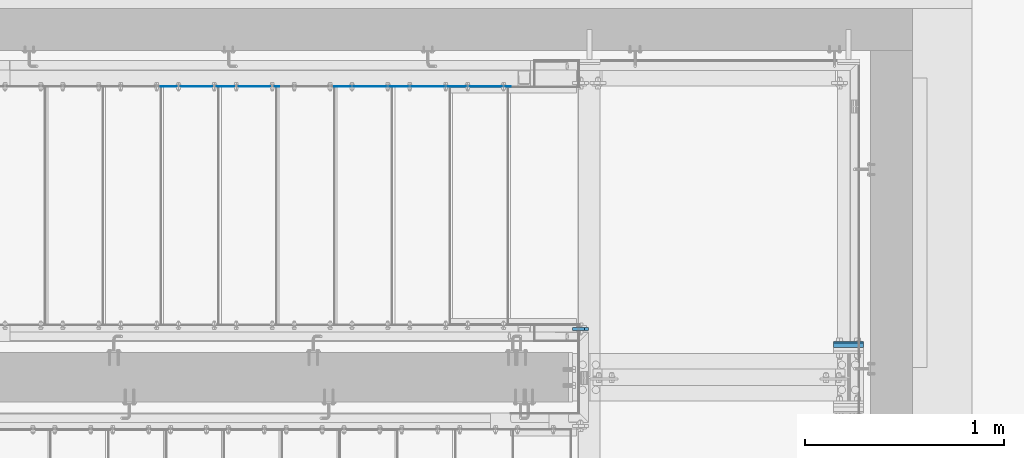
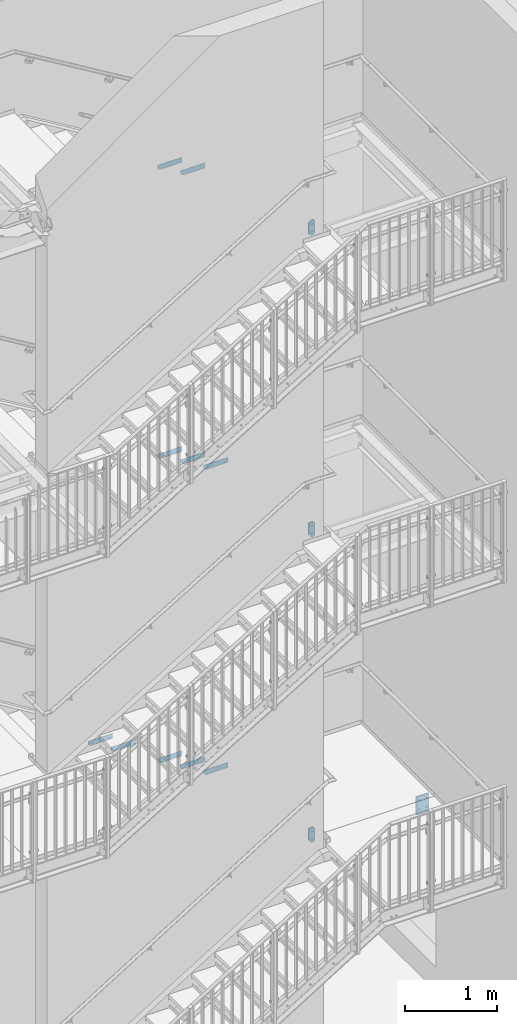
# One storey, part 65 of 410: 14 plates, 41 openings.
"""IFC2X3 building model written with IfcOpenShell, lengths in millimetres."""

import ifcopenshell
import ifcopenshell.guid

model = None  # the IFC model being written
_history = None  # IfcOwnerHistory: only IFC2X3 demands one
_inside = {}  # id of a spatial element -> (the spatial element, [elements in it])
_under = {}  # id of a project, library or spatial element -> (it, [spatial elements below it])
_declared = {}  # id of a project -> (the project, [libraries it declares])
_typed = {}  # id of a type object -> (the type object, [elements of that type])
_made_of = {}  # id of a material, layer set ... -> (it, [elements and type objects made of it])


def new_model(schema):
    """Start an empty IFC model of exactly this schema.

    Asked for "IFC4X3", IfcOpenShell would pick the latest addendum, in which some entities
    have other attributes; the version numbers below select the first issue.
    IFC2X3 requires an IfcOwnerHistory on every rooted entity: one is made here for all.
    """
    global model, _history
    if schema == "IFC4X3":
        model = ifcopenshell.file(schema_version=(4, 3, 0, 0))
    else:
        model = ifcopenshell.file(schema=schema)
    _inside.clear()
    _under.clear()
    _declared.clear()
    _typed.clear()
    _made_of.clear()
    _history = None
    if model.schema == "IFC2X3":
        org = make("IfcOrganization", Name="unknown")
        user = make(
            "IfcPersonAndOrganization",
            ThePerson=make("IfcPerson", FamilyName="unknown"),
            TheOrganization=org,
        )
        app = make(
            "IfcApplication",
            ApplicationDeveloper=org,
            Version="unknown",
            ApplicationFullName="unknown",
            ApplicationIdentifier="unknown",
        )
        _history = make(
            "IfcOwnerHistory",
            OwningUser=user,
            OwningApplication=app,
            ChangeAction="ADDED",
            CreationDate=0,
        )
    return model


def make(cls, **values):
    """One entity of the class cls with the attributes given. An attribute that is None is left unset."""
    return model.create_entity(
        cls, **{name: value for name, value in values.items() if value is not None}
    )


def entity(cls, *values):
    """Any entity or typed value of the class cls, its attributes in the order of the schema. None: left unset."""
    e = model.create_entity(cls)
    for i, value in enumerate(values):
        if value is not None:
            e[i] = value
    return e


def rooted(cls, **values):
    """An entity with a GlobalId (a new one), such as an element, a storey or a relation."""
    return make(cls, GlobalId=ifcopenshell.guid.new(), OwnerHistory=_history, **values)


def si_unit(unit_type, name, prefix=None):
    """IfcSIUnit, for example si_unit("LENGTHUNIT", "METRE", prefix="MILLI")."""
    return make("IfcSIUnit", UnitType=unit_type, Prefix=prefix, Name=name)


def converted_unit(unit_type, name, factor, base, dimensions=None, offset=None):
    """IfcConversionBasedUnit, such as the inch: factor (a typed value) times the base unit."""
    return make(
        "IfcConversionBasedUnit"
        if offset is None
        else "IfcConversionBasedUnitWithOffset",
        ConversionOffset=offset,
        Dimensions=None
        if dimensions is None
        else entity("IfcDimensionalExponents", *dimensions),
        UnitType=unit_type,
        Name=name,
        ConversionFactor=make(
            "IfcMeasureWithUnit", ValueComponent=factor, UnitComponent=base
        ),
    )


def assignment(units):
    """IfcUnitAssignment: the units of a project."""
    return None if units is None else make("IfcUnitAssignment", Units=units)


def point(xyz):
    """IfcCartesianPoint."""
    return None if xyz is None else make("IfcCartesianPoint", Coordinates=xyz)


def direction(xyz):
    """IfcDirection."""
    return None if xyz is None else make("IfcDirection", DirectionRatios=xyz)


def frame(location, z_axis=None, x_axis=None):
    """IfcAxis2Placement3D, a coordinate frame: its origin and axes. An axis left out is left unset."""
    return make(
        "IfcAxis2Placement3D",
        Location=point(location),
        Axis=direction(z_axis),
        RefDirection=direction(x_axis),
    )


def frame_2d(location, x_axis=None):
    """IfcAxis2Placement2D, a coordinate frame in the plane: its origin and x axis."""
    return make(
        "IfcAxis2Placement2D", Location=point(location), RefDirection=direction(x_axis)
    )


def origin():
    """The frame at (0, 0, 0) with its axes left unset."""
    return frame((0.0, 0.0, 0.0))


def origin_with_axes():
    """The frame at (0, 0, 0) with the z axis (0, 0, 1) and the x axis (1, 0, 0) written out."""
    return frame((0.0, 0.0, 0.0), z_axis=(0.0, 0.0, 1.0), x_axis=(1.0, 0.0, 0.0))


def origin_2d_with_axis():
    """The frame at (0, 0) in the plane with the x axis (1, 0) written out."""
    return frame_2d((0.0, 0.0), x_axis=(1.0, 0.0))


def place(relative_to, where):
    """IfcLocalPlacement: puts the frame where relative to a parent placement (None: the world)."""
    return make(
        "IfcLocalPlacement", PlacementRelTo=relative_to, RelativePlacement=where
    )


def context(
    kind, dimensions, precision=None, world=None, true_north=None, identifier=None
):
    """IfcGeometricRepresentationContext, for example the 3D "Model" context."""
    return make(
        "IfcGeometricRepresentationContext",
        ContextIdentifier=identifier,
        ContextType=kind,
        CoordinateSpaceDimension=dimensions,
        Precision=precision,
        WorldCoordinateSystem=world,
        TrueNorth=true_north,
    )


def project(units=None, contexts=None):
    """IfcProject with its units and contexts."""
    return rooted(
        "IfcProject",
        Name="project",
        RepresentationContexts=contexts,
        UnitsInContext=assignment(units),
    )


def spatial(cls, under=None, at=None, **own):
    """A site, building, storey or space (cls), placed at a placement, below another one or the project."""
    s = rooted(cls, ObjectPlacement=at, **own)
    if under is not None:
        _under.setdefault(under.id(), (under, []))[1].append(s)
    return s


def polyline(points):
    """IfcPolyline through the points."""
    return make("IfcPolyline", Points=[point(p) for p in points])


def circle_curve(where, radius):
    """IfcCircle in the frame where."""
    return make("IfcCircle", Position=where, Radius=radius)


def line_curve(start, along, magnitude):
    """IfcLine from a point along a vector."""
    return make(
        "IfcLine",
        Pnt=point(start),
        Dir=make("IfcVector", Orientation=direction(along), Magnitude=magnitude),
    )


def trimmed(basis, trim1, trim2, sense, master):
    """IfcTrimmedCurve: the piece of a basis curve between two trims."""
    return make(
        "IfcTrimmedCurve",
        BasisCurve=basis,
        Trim1=trim1,
        Trim2=trim2,
        SenseAgreement=sense,
        MasterRepresentation=master,
    )


def segment(curve, same_sense, transition):
    """IfcCompositeCurveSegment."""
    return make(
        "IfcCompositeCurveSegment",
        Transition=transition,
        SameSense=same_sense,
        ParentCurve=curve,
    )


def composite_curve(segments, self_intersect=None):
    """IfcCompositeCurve: segments joined end to end."""
    return make("IfcCompositeCurve", Segments=segments, SelfIntersect=self_intersect)


def profile(cls, at=None, kind="AREA", **sizes):
    """A parametric profile (cls). Its sizes go by their IFC names, for example OverallWidth=200.0."""
    return make(cls, ProfileType=kind, Position=at, **sizes)


def circle(**sizes):
    """IfcCircleProfileDef."""
    return profile("IfcCircleProfileDef", **sizes)


def outline(outer, holes=None, kind="AREA"):
    """IfcArbitraryClosedProfileDef: a profile drawn as a closed curve; with holes, ...WithVoids."""
    if holes is None:
        return make("IfcArbitraryClosedProfileDef", ProfileType=kind, OuterCurve=outer)
    return make(
        "IfcArbitraryProfileDefWithVoids",
        ProfileType=kind,
        OuterCurve=outer,
        InnerCurves=holes,
    )


def extrude(swept, where, along, depth):
    """IfcExtrudedAreaSolid: the profile swept, set in the frame where, extruded along a direction by depth."""
    return make(
        "IfcExtrudedAreaSolid",
        SweptArea=swept,
        Position=where,
        ExtrudedDirection=direction(along),
        Depth=depth,
    )


def shape(context_of_items, identifier, shape_type, items):
    """IfcShapeRepresentation: the items that make up one representation, for example the "Body"."""
    return make(
        "IfcShapeRepresentation",
        ContextOfItems=context_of_items,
        RepresentationIdentifier=identifier,
        RepresentationType=shape_type,
        Items=items,
    )


def material(Name=None, Category=None):
    """IfcMaterial."""
    return make("IfcMaterial", Name=Name, Category=Category)


def layer(
    of_material, thickness, ventilated=None, Name=None, Category=None, Priority=None
):
    """IfcMaterialLayer: one layer of a wall or slab, of a material (None: an air gap)."""
    return make(
        "IfcMaterialLayer",
        Material=of_material,
        LayerThickness=thickness,
        IsVentilated=ventilated,
        Name=Name,
        Category=Category,
        Priority=Priority,
    )


def layer_set(layers, Name=None):
    """IfcMaterialLayerSet."""
    return make("IfcMaterialLayerSet", MaterialLayers=layers, LayerSetName=Name)


def made_of(thing, what):
    """Note that an element or type object is made of a material, layer set ...; save() writes the relation."""
    if what is not None:
        _made_of.setdefault(what.id(), (what, []))[1].append(thing)
    return thing


def element(
    cls,
    number,
    at=None,
    inside=None,
    cuts=None,
    type_object=None,
    material=None,
    context=None,
    identifier="Body",
    shape_type=None,
    held_by="IfcProductDefinitionShape",
    body=None,
    shapes=None,
    **own,
):
    """One element of the class cls, such as IfcWall. Its Tag is "e" and its number.

    at: its placement. inside: the storey or other place that contains it. cuts: it is an
    opening in that element (IfcRelVoidsElement). A single representation is given by context,
    identifier, shape_type and body (its items); several are given by shapes. held_by: the class
    of the entity that holds the representations. save() writes the other relations.
    """
    e = rooted(cls, Tag="e%d" % number, ObjectPlacement=at, **own)
    if body is not None:
        shapes = [shape(context, identifier, shape_type, body)]
    if shapes is not None:
        e.Representation = make(held_by, Representations=shapes)
    if inside is not None:
        _inside.setdefault(inside.id(), (inside, []))[1].append(e)
    if cuts is not None:
        rooted(
            "IfcRelVoidsElement", RelatingBuildingElement=cuts, RelatedOpeningElement=e
        )
    if type_object is not None:
        _typed.setdefault(type_object.id(), (type_object, []))[1].append(e)
    return made_of(e, material)


def aggregate(whole, parts):
    """IfcRelAggregates: a whole, such as a stair, and the parts it consists of."""
    return rooted("IfcRelAggregates", RelatingObject=whole, RelatedObjects=parts)


def save(model, path):
    """Write the relations noted so far, then the file.

    IfcRelAggregates (storeys below a building ...), IfcRelContainedInSpatialStructure (elements
    in a storey), IfcRelDefinesByType, IfcRelAssociatesMaterial and IfcRelDeclares: one each for
    every whole, place, type object, material and project.
    """
    for whole, parts in _under.values():
        aggregate(whole, parts)
    for where, things in _inside.values():
        rooted(
            "IfcRelContainedInSpatialStructure",
            RelatedElements=things,
            RelatingStructure=where,
        )
    for kind, things in _typed.values():
        rooted("IfcRelDefinesByType", RelatedObjects=things, RelatingType=kind)
    for what, things in _made_of.values():
        rooted("IfcRelAssociatesMaterial", RelatedObjects=things, RelatingMaterial=what)
    for by, libraries in _declared.values():
        rooted("IfcRelDeclares", RelatingContext=by, RelatedDefinitions=libraries)
    model.write(path)


model = new_model("IFC2X3")

# Units and contexts
model_context = context("Model", 3, precision=1e-09, world=origin_with_axes())
ifc_project = project(units=[si_unit("LENGTHUNIT", "METRE", prefix="MILLI"), si_unit("AREAUNIT", "SQUARE_METRE"), si_unit("VOLUMEUNIT", "CUBIC_METRE"), converted_unit("PLANEANGLEUNIT", "DEGREE", entity("IfcPlaneAngleMeasure", 0.01745329), si_unit("PLANEANGLEUNIT", "RADIAN"), dimensions=[0, 0, 0, 0, 0, 0, 0])], contexts=[model_context])

# Site, building, storey
site_placement = place(None, origin_with_axes())
site = spatial("IfcSite", under=ifc_project, at=site_placement, Name="mKR Teilneubau & Sanierung BA1 - Ostfildern", CompositionType="ELEMENT")
building_placement = place(site_placement, origin_with_axes())
building = spatial("IfcBuilding", under=site, at=building_placement, Name="Struktur 1", CompositionType="ELEMENT")
storey_placement = place(building_placement, origin_with_axes())
storey = spatial("IfcBuildingStorey", under=building, at=storey_placement, Name="Default Storey", CompositionType="ELEMENT", Elevation=0.0)

# Plate, openings
ifc_material = material(Name="S235JR")
ifc_layer_1 = layer(ifc_material, 3.0)
ifc_layer_set_1 = layer_set([ifc_layer_1], Name="S235JR")
plate_1_placement = place(None, frame((905.0, 18436.999999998, 6275.0), z_axis=(0.0, 1.0, 0.0), x_axis=(0.0, 0.0, -1.0)))
plate_1 = element("IfcPlate", 1, at=plate_1_placement, inside=storey, material=ifc_layer_set_1, Name="Grate_Step#3", ObjectType="Grate_Step#3", context=model_context, shape_type="SweptSolid", body=[
    extrude(outline(polyline([(0.0, 0.0), (70.0, 0.0), (70.0, 275.0), (40.0, 305.0), (0.0, 305.0), (0.0, 0.0)])), origin_with_axes(), (0.0, 0.0, 1.0), 3.0),
])
opening_1_placement = place(plate_1_placement, frame((55.0, 35.0, -0.5), z_axis=(0.0, 0.0, 1.0), x_axis=(0.0, 1.0, 0.0)))
element("IfcOpeningElement", 2, at=opening_1_placement, cuts=plate_1, ObjectType="Opening", context=model_context, shape_type="SweptSolid", body=[
    extrude(circle(Radius=7.001, at=origin_2d_with_axis()), origin(), (0.0, 0.0, 1.0), 4.0),
])
opening_2_placement = place(plate_1_placement, frame((55.0, 215.0, -0.5), z_axis=(0.0, 0.0, 1.0), x_axis=(0.0, 1.0, 0.0)))
element("IfcOpeningElement", 3, at=opening_2_placement, cuts=plate_1, ObjectType="Opening", context=model_context, shape_type="SweptSolid", body=[
    extrude(outline(composite_curve([segment(trimmed(line_curve((-9.5, -7.001), (1.0, 0.0), 19.0), [point((-9.5, -7.001))], [point((9.5, -7.001))], True, "CARTESIAN"), True, "CONTINUOUS"), segment(trimmed(circle_curve(frame_2d((9.5, 0.0), x_axis=(1.0, 0.0)), 7.001), [point((9.5, -7.001))], [point((9.5, 7.001))], True, "CARTESIAN"), True, "CONTINUOUS"), segment(trimmed(line_curve((9.5, 7.001), (-1.0, 0.0), 19.0), [point((9.5, 7.001))], [point((-9.5, 7.001))], True, "CARTESIAN"), True, "CONTINUOUS"), segment(trimmed(circle_curve(frame_2d((-9.5, 0.0), x_axis=(1.0, 0.0)), 7.001), [point((-9.5, 7.001))], [point((-9.5, -7.001))], True, "CARTESIAN"), True, "CONTINUOUS")], self_intersect=False)), origin(), (0.0, 0.0, 1.0), 4.0),
])

plate_2_placement = place(None, frame((1195.0, 18436.999999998, 6100.0), z_axis=(0.0, 1.0, 0.0), x_axis=(0.0, 0.0, -1.0)))
plate_2 = element("IfcPlate", 4, at=plate_2_placement, inside=storey, material=ifc_layer_set_1, Name="Grate_Step#3", ObjectType="Grate_Step#3", context=model_context, shape_type="SweptSolid", body=[
    extrude(outline(polyline([(0.0, 0.0), (70.0, 0.0), (70.0, 275.0), (40.0, 305.0), (0.0, 305.0), (0.0, 0.0)])), origin_with_axes(), (0.0, 0.0, 1.0), 3.0),
])
opening_3_placement = place(plate_2_placement, frame((55.0, 215.0, -0.5), z_axis=(0.0, 0.0, 1.0), x_axis=(0.0, 1.0, 0.0)))
element("IfcOpeningElement", 5, at=opening_3_placement, cuts=plate_2, ObjectType="Opening", context=model_context, shape_type="SweptSolid", body=[
    extrude(outline(composite_curve([segment(trimmed(line_curve((-9.5, -7.001), (1.0, 0.0), 19.0), [point((-9.5, -7.001))], [point((9.5, -7.001))], True, "CARTESIAN"), True, "CONTINUOUS"), segment(trimmed(circle_curve(frame_2d((9.5, 0.0), x_axis=(1.0, 0.0)), 7.001), [point((9.5, -7.001))], [point((9.5, 7.001))], True, "CARTESIAN"), True, "CONTINUOUS"), segment(trimmed(line_curve((9.5, 7.001), (-1.0, 0.0), 19.0), [point((9.5, 7.001))], [point((-9.5, 7.001))], True, "CARTESIAN"), True, "CONTINUOUS"), segment(trimmed(circle_curve(frame_2d((-9.5, 0.0), x_axis=(1.0, 0.0)), 7.001), [point((-9.5, 7.001))], [point((-9.5, -7.001))], True, "CARTESIAN"), True, "CONTINUOUS")], self_intersect=False)), origin(), (0.0, 0.0, 1.0), 4.0),
])
opening_4_placement = place(plate_2_placement, frame((55.0, 35.0, -0.5), z_axis=(0.0, 0.0, 1.0), x_axis=(0.0, 1.0, 0.0)))
element("IfcOpeningElement", 6, at=opening_4_placement, cuts=plate_2, ObjectType="Opening", context=model_context, shape_type="SweptSolid", body=[
    extrude(circle(Radius=7.001, at=origin_2d_with_axis()), origin(), (0.0, 0.0, 1.0), 4.0),
])

plate_3_placement = place(None, frame((1485.0, 18436.999999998, 2086.956522), z_axis=(0.0, 1.0, 0.0), x_axis=(0.0, 0.0, -1.0)))
plate_3 = element("IfcPlate", 7, at=plate_3_placement, inside=storey, material=ifc_layer_set_1, Name="Grate_Step#3", ObjectType="Grate_Step#3", context=model_context, shape_type="SweptSolid", body=[
    extrude(outline(polyline([(0.0, 0.0), (70.0, 0.0), (70.0, 275.0), (40.0, 305.0), (0.0, 305.0), (0.0, 0.0)])), origin_with_axes(), (0.0, 0.0, 1.0), 3.0),
])
opening_5_placement = place(plate_3_placement, frame((55.0, 35.0, -0.5), z_axis=(0.0, 0.0, 1.0), x_axis=(0.0, 1.0, 0.0)))
element("IfcOpeningElement", 8, at=opening_5_placement, cuts=plate_3, ObjectType="Opening", context=model_context, shape_type="SweptSolid", body=[
    extrude(circle(Radius=7.001, at=origin_2d_with_axis()), origin(), (0.0, 0.0, 1.0), 4.0),
])
opening_6_placement = place(plate_3_placement, frame((55.0, 215.0, -0.5), z_axis=(0.0, 0.0, 1.0), x_axis=(0.0, 1.0, 0.0)))
element("IfcOpeningElement", 9, at=opening_6_placement, cuts=plate_3, ObjectType="Opening", context=model_context, shape_type="SweptSolid", body=[
    extrude(outline(composite_curve([segment(trimmed(line_curve((-9.5, -7.001), (1.0, 0.0), 19.0), [point((-9.5, -7.001))], [point((9.5, -7.001))], True, "CARTESIAN"), True, "CONTINUOUS"), segment(trimmed(circle_curve(frame_2d((9.5, 0.0), x_axis=(1.0, 0.0)), 7.001), [point((9.5, -7.001))], [point((9.5, 7.001))], True, "CARTESIAN"), True, "CONTINUOUS"), segment(trimmed(line_curve((9.5, 7.001), (-1.0, 0.0), 19.0), [point((9.5, 7.001))], [point((-9.5, 7.001))], True, "CARTESIAN"), True, "CONTINUOUS"), segment(trimmed(circle_curve(frame_2d((-9.5, 0.0), x_axis=(1.0, 0.0)), 7.001), [point((-9.5, 7.001))], [point((-9.5, -7.001))], True, "CARTESIAN"), True, "CONTINUOUS")], self_intersect=False)), origin(), (0.0, 0.0, 1.0), 4.0),
])

plate_4_placement = place(None, frame((1195.0, 18436.999999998, 2260.8695655), z_axis=(0.0, 1.0, 0.0), x_axis=(0.0, 0.0, -1.0)))
plate_4 = element("IfcPlate", 10, at=plate_4_placement, inside=storey, material=ifc_layer_set_1, Name="Grate_Step#3", ObjectType="Grate_Step#3", context=model_context, shape_type="SweptSolid", body=[
    extrude(outline(polyline([(0.0, 0.0), (70.0, 0.0), (70.0, 275.0), (40.0, 305.0), (0.0, 305.0), (0.0, 0.0)])), origin_with_axes(), (0.0, 0.0, 1.0), 3.0),
])
opening_7_placement = place(plate_4_placement, frame((55.0, 215.0, -0.5), z_axis=(0.0, 0.0, 1.0), x_axis=(0.0, 1.0, 0.0)))
element("IfcOpeningElement", 11, at=opening_7_placement, cuts=plate_4, ObjectType="Opening", context=model_context, shape_type="SweptSolid", body=[
    extrude(outline(composite_curve([segment(trimmed(line_curve((-9.5, -7.001), (1.0, 0.0), 19.0), [point((-9.5, -7.001))], [point((9.5, -7.001))], True, "CARTESIAN"), True, "CONTINUOUS"), segment(trimmed(circle_curve(frame_2d((9.5, 0.0), x_axis=(1.0, 0.0)), 7.001), [point((9.5, -7.001))], [point((9.5, 7.001))], True, "CARTESIAN"), True, "CONTINUOUS"), segment(trimmed(line_curve((9.5, 7.001), (-1.0, 0.0), 19.0), [point((9.5, 7.001))], [point((-9.5, 7.001))], True, "CARTESIAN"), True, "CONTINUOUS"), segment(trimmed(circle_curve(frame_2d((-9.5, 0.0), x_axis=(1.0, 0.0)), 7.001), [point((-9.5, 7.001))], [point((-9.5, -7.001))], True, "CARTESIAN"), True, "CONTINUOUS")], self_intersect=False)), origin(), (0.0, 0.0, 1.0), 4.0),
])
opening_8_placement = place(plate_4_placement, frame((55.0, 35.0, -0.5), z_axis=(0.0, 0.0, 1.0), x_axis=(0.0, 1.0, 0.0)))
element("IfcOpeningElement", 12, at=opening_8_placement, cuts=plate_4, ObjectType="Opening", context=model_context, shape_type="SweptSolid", body=[
    extrude(circle(Radius=7.001, at=origin_2d_with_axis()), origin(), (0.0, 0.0, 1.0), 4.0),
])

plate_5_placement = place(None, frame((905.0, 18436.999999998, 2434.782609), z_axis=(0.0, 1.0, 0.0), x_axis=(0.0, 0.0, -1.0)))
plate_5 = element("IfcPlate", 13, at=plate_5_placement, inside=storey, material=ifc_layer_set_1, Name="Grate_Step#3", ObjectType="Grate_Step#3", context=model_context, shape_type="SweptSolid", body=[
    extrude(outline(polyline([(0.0, 0.0), (70.0, 0.0), (70.0, 275.0), (40.0, 305.0), (0.0, 305.0), (0.0, 0.0)])), origin_with_axes(), (0.0, 0.0, 1.0), 3.0),
])
opening_9_placement = place(plate_5_placement, frame((55.0, 215.0, -0.5), z_axis=(0.0, 0.0, 1.0), x_axis=(0.0, 1.0, 0.0)))
element("IfcOpeningElement", 14, at=opening_9_placement, cuts=plate_5, ObjectType="Opening", context=model_context, shape_type="SweptSolid", body=[
    extrude(outline(composite_curve([segment(trimmed(line_curve((-9.5, -7.001), (1.0, 0.0), 19.0), [point((-9.5, -7.001))], [point((9.5, -7.001))], True, "CARTESIAN"), True, "CONTINUOUS"), segment(trimmed(circle_curve(frame_2d((9.5, 0.0), x_axis=(1.0, 0.0)), 7.001), [point((9.5, -7.001))], [point((9.5, 7.001))], True, "CARTESIAN"), True, "CONTINUOUS"), segment(trimmed(line_curve((9.5, 7.001), (-1.0, 0.0), 19.0), [point((9.5, 7.001))], [point((-9.5, 7.001))], True, "CARTESIAN"), True, "CONTINUOUS"), segment(trimmed(circle_curve(frame_2d((-9.5, 0.0), x_axis=(1.0, 0.0)), 7.001), [point((-9.5, 7.001))], [point((-9.5, -7.001))], True, "CARTESIAN"), True, "CONTINUOUS")], self_intersect=False)), origin(), (0.0, 0.0, 1.0), 4.0),
])
opening_10_placement = place(plate_5_placement, frame((55.0, 35.0, -0.5), z_axis=(0.0, 0.0, 1.0), x_axis=(0.0, 1.0, 0.0)))
element("IfcOpeningElement", 15, at=opening_10_placement, cuts=plate_5, ObjectType="Opening", context=model_context, shape_type="SweptSolid", body=[
    extrude(circle(Radius=7.001, at=origin_2d_with_axis()), origin(), (0.0, 0.0, 1.0), 4.0),
])

plate_6_placement = place(None, frame((1485.0, 18436.999999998, -1966.8), z_axis=(0.0, 1.0, 0.0), x_axis=(0.0, 0.0, -1.0)))
plate_6 = element("IfcPlate", 16, at=plate_6_placement, inside=storey, material=ifc_layer_set_1, Name="Grate_Step#3", ObjectType="Grate_Step#3", context=model_context, shape_type="SweptSolid", body=[
    extrude(outline(polyline([(0.0, 0.0), (70.0, 0.0), (70.0, 275.0), (40.0, 305.0), (0.0, 305.0), (0.0, 0.0)])), origin_with_axes(), (0.0, 0.0, 1.0), 3.0),
])
opening_11_placement = place(plate_6_placement, frame((55.0, 35.0, -0.5), z_axis=(0.0, 0.0, 1.0), x_axis=(0.0, 1.0, 0.0)))
element("IfcOpeningElement", 17, at=opening_11_placement, cuts=plate_6, ObjectType="Opening", context=model_context, shape_type="SweptSolid", body=[
    extrude(circle(Radius=7.001, at=origin_2d_with_axis()), origin(), (0.0, 0.0, 1.0), 4.0),
])
opening_12_placement = place(plate_6_placement, frame((55.0, 215.0, -0.5), z_axis=(0.0, 0.0, 1.0), x_axis=(0.0, 1.0, 0.0)))
element("IfcOpeningElement", 18, at=opening_12_placement, cuts=plate_6, ObjectType="Opening", context=model_context, shape_type="SweptSolid", body=[
    extrude(outline(composite_curve([segment(trimmed(line_curve((-9.5, -7.001), (1.0, 0.0), 19.0), [point((-9.5, -7.001))], [point((9.5, -7.001))], True, "CARTESIAN"), True, "CONTINUOUS"), segment(trimmed(circle_curve(frame_2d((9.5, 0.0), x_axis=(1.0, 0.0)), 7.001), [point((9.5, -7.001))], [point((9.5, 7.001))], True, "CARTESIAN"), True, "CONTINUOUS"), segment(trimmed(line_curve((9.5, 7.001), (-1.0, 0.0), 19.0), [point((9.5, 7.001))], [point((-9.5, 7.001))], True, "CARTESIAN"), True, "CONTINUOUS"), segment(trimmed(circle_curve(frame_2d((-9.5, 0.0), x_axis=(1.0, 0.0)), 7.001), [point((-9.5, 7.001))], [point((-9.5, -7.001))], True, "CARTESIAN"), True, "CONTINUOUS")], self_intersect=False)), origin(), (0.0, 0.0, 1.0), 4.0),
])

plate_7_placement = place(None, frame((1195.0, 18436.999999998, -1788.0), z_axis=(0.0, 1.0, 0.0), x_axis=(0.0, 0.0, -1.0)))
plate_7 = element("IfcPlate", 19, at=plate_7_placement, inside=storey, material=ifc_layer_set_1, Name="Grate_Step#3", ObjectType="Grate_Step#3", context=model_context, shape_type="SweptSolid", body=[
    extrude(outline(polyline([(0.0, 0.0), (70.0, 0.0), (70.0, 275.0), (40.0, 305.0), (0.0, 305.0), (0.0, 0.0)])), origin_with_axes(), (0.0, 0.0, 1.0), 3.0),
])
opening_13_placement = place(plate_7_placement, frame((55.0, 215.0, -0.5), z_axis=(0.0, 0.0, 1.0), x_axis=(0.0, 1.0, 0.0)))
element("IfcOpeningElement", 20, at=opening_13_placement, cuts=plate_7, ObjectType="Opening", context=model_context, shape_type="SweptSolid", body=[
    extrude(outline(composite_curve([segment(trimmed(line_curve((-9.5, -7.001), (1.0, 0.0), 19.0), [point((-9.5, -7.001))], [point((9.5, -7.001))], True, "CARTESIAN"), True, "CONTINUOUS"), segment(trimmed(circle_curve(frame_2d((9.5, 0.0), x_axis=(1.0, 0.0)), 7.001), [point((9.5, -7.001))], [point((9.5, 7.001))], True, "CARTESIAN"), True, "CONTINUOUS"), segment(trimmed(line_curve((9.5, 7.001), (-1.0, 0.0), 19.0), [point((9.5, 7.001))], [point((-9.5, 7.001))], True, "CARTESIAN"), True, "CONTINUOUS"), segment(trimmed(circle_curve(frame_2d((-9.5, 0.0), x_axis=(1.0, 0.0)), 7.001), [point((-9.5, 7.001))], [point((-9.5, -7.001))], True, "CARTESIAN"), True, "CONTINUOUS")], self_intersect=False)), origin(), (0.0, 0.0, 1.0), 4.0),
])
opening_14_placement = place(plate_7_placement, frame((55.0, 35.0, -0.5), z_axis=(0.0, 0.0, 1.0), x_axis=(0.0, 1.0, 0.0)))
element("IfcOpeningElement", 21, at=opening_14_placement, cuts=plate_7, ObjectType="Opening", context=model_context, shape_type="SweptSolid", body=[
    extrude(circle(Radius=7.001, at=origin_2d_with_axis()), origin(), (0.0, 0.0, 1.0), 4.0),
])

plate_8_placement = place(None, frame((905.0, 18436.999999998, -1609.2), z_axis=(0.0, 1.0, 0.0), x_axis=(0.0, 0.0, -1.0)))
plate_8 = element("IfcPlate", 22, at=plate_8_placement, inside=storey, material=ifc_layer_set_1, Name="Grate_Step#3", ObjectType="Grate_Step#3", context=model_context, shape_type="SweptSolid", body=[
    extrude(outline(polyline([(0.0, 0.0), (70.0, 0.0), (70.0, 275.0), (40.0, 305.0), (0.0, 305.0), (0.0, 0.0)])), origin_with_axes(), (0.0, 0.0, 1.0), 3.0),
])
opening_15_placement = place(plate_8_placement, frame((55.0, 35.0, -0.5), z_axis=(0.0, 0.0, 1.0), x_axis=(0.0, 1.0, 0.0)))
element("IfcOpeningElement", 23, at=opening_15_placement, cuts=plate_8, ObjectType="Opening", context=model_context, shape_type="SweptSolid", body=[
    extrude(circle(Radius=7.001, at=origin_2d_with_axis()), origin(), (0.0, 0.0, 1.0), 4.0),
])
opening_16_placement = place(plate_8_placement, frame((55.0, 215.0, -0.5), z_axis=(0.0, 0.0, 1.0), x_axis=(0.0, 1.0, 0.0)))
element("IfcOpeningElement", 24, at=opening_16_placement, cuts=plate_8, ObjectType="Opening", context=model_context, shape_type="SweptSolid", body=[
    extrude(outline(composite_curve([segment(trimmed(line_curve((-9.5, -7.001), (1.0, 0.0), 19.0), [point((-9.5, -7.001))], [point((9.5, -7.001))], True, "CARTESIAN"), True, "CONTINUOUS"), segment(trimmed(circle_curve(frame_2d((9.5, 0.0), x_axis=(1.0, 0.0)), 7.001), [point((9.5, -7.001))], [point((9.5, 7.001))], True, "CARTESIAN"), True, "CONTINUOUS"), segment(trimmed(line_curve((9.5, 7.001), (-1.0, 0.0), 19.0), [point((9.5, 7.001))], [point((-9.5, 7.001))], True, "CARTESIAN"), True, "CONTINUOUS"), segment(trimmed(circle_curve(frame_2d((-9.5, 0.0), x_axis=(1.0, 0.0)), 7.001), [point((-9.5, 7.001))], [point((-9.5, -7.001))], True, "CARTESIAN"), True, "CONTINUOUS")], self_intersect=False)), origin(), (0.0, 0.0, 1.0), 4.0),
])

plate_9_placement = place(None, frame((325.0, 18436.999999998, -1251.6), z_axis=(0.0, 1.0, 0.0), x_axis=(0.0, 0.0, -1.0)))
plate_9 = element("IfcPlate", 25, at=plate_9_placement, inside=storey, material=ifc_layer_set_1, Name="Grate_Step#3", ObjectType="Grate_Step#3", context=model_context, shape_type="SweptSolid", body=[
    extrude(outline(polyline([(0.0, 0.0), (70.0, 0.0), (70.0, 275.0), (40.0, 305.0), (0.0, 305.0), (0.0, 0.0)])), origin_with_axes(), (0.0, 0.0, 1.0), 3.0),
])
opening_17_placement = place(plate_9_placement, frame((55.0, 35.0, -0.5), z_axis=(0.0, 0.0, 1.0), x_axis=(0.0, 1.0, 0.0)))
element("IfcOpeningElement", 26, at=opening_17_placement, cuts=plate_9, ObjectType="Opening", context=model_context, shape_type="SweptSolid", body=[
    extrude(circle(Radius=7.001, at=origin_2d_with_axis()), origin(), (0.0, 0.0, 1.0), 4.0),
])
opening_18_placement = place(plate_9_placement, frame((55.0, 215.0, -0.5), z_axis=(0.0, 0.0, 1.0), x_axis=(0.0, 1.0, 0.0)))
element("IfcOpeningElement", 27, at=opening_18_placement, cuts=plate_9, ObjectType="Opening", context=model_context, shape_type="SweptSolid", body=[
    extrude(outline(composite_curve([segment(trimmed(line_curve((-9.5, -7.001), (1.0, 0.0), 19.0), [point((-9.5, -7.001))], [point((9.5, -7.001))], True, "CARTESIAN"), True, "CONTINUOUS"), segment(trimmed(circle_curve(frame_2d((9.5, 0.0), x_axis=(1.0, 0.0)), 7.001), [point((9.5, -7.001))], [point((9.5, 7.001))], True, "CARTESIAN"), True, "CONTINUOUS"), segment(trimmed(line_curve((9.5, 7.001), (-1.0, 0.0), 19.0), [point((9.5, 7.001))], [point((-9.5, 7.001))], True, "CARTESIAN"), True, "CONTINUOUS"), segment(trimmed(circle_curve(frame_2d((-9.5, 0.0), x_axis=(1.0, 0.0)), 7.001), [point((-9.5, 7.001))], [point((-9.5, -7.001))], True, "CARTESIAN"), True, "CONTINUOUS")], self_intersect=False)), origin(), (0.0, 0.0, 1.0), 4.0),
])

plate_10_placement = place(None, frame((35.0, 18436.999999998, -1072.8), z_axis=(0.0, 1.0, 0.0), x_axis=(0.0, 0.0, -1.0)))
plate_10 = element("IfcPlate", 28, at=plate_10_placement, inside=storey, material=ifc_layer_set_1, Name="Grate_Step#3", ObjectType="Grate_Step#3", context=model_context, shape_type="SweptSolid", body=[
    extrude(outline(polyline([(0.0, 0.0), (70.0, 0.0), (70.0, 275.0), (40.0, 305.0), (0.0, 305.0), (0.0, 0.0)])), origin_with_axes(), (0.0, 0.0, 1.0), 3.0),
])
opening_19_placement = place(plate_10_placement, frame((55.0, 215.0, -0.5), z_axis=(0.0, 0.0, 1.0), x_axis=(0.0, 1.0, 0.0)))
element("IfcOpeningElement", 29, at=opening_19_placement, cuts=plate_10, ObjectType="Opening", context=model_context, shape_type="SweptSolid", body=[
    extrude(outline(composite_curve([segment(trimmed(line_curve((-9.5, -7.001), (1.0, 0.0), 19.0), [point((-9.5, -7.001))], [point((9.5, -7.001))], True, "CARTESIAN"), True, "CONTINUOUS"), segment(trimmed(circle_curve(frame_2d((9.5, 0.0), x_axis=(1.0, 0.0)), 7.001), [point((9.5, -7.001))], [point((9.5, 7.001))], True, "CARTESIAN"), True, "CONTINUOUS"), segment(trimmed(line_curve((9.5, 7.001), (-1.0, 0.0), 19.0), [point((9.5, 7.001))], [point((-9.5, 7.001))], True, "CARTESIAN"), True, "CONTINUOUS"), segment(trimmed(circle_curve(frame_2d((-9.5, 0.0), x_axis=(1.0, 0.0)), 7.001), [point((-9.5, 7.001))], [point((-9.5, -7.001))], True, "CARTESIAN"), True, "CONTINUOUS")], self_intersect=False)), origin(), (0.0, 0.0, 1.0), 4.0),
])
opening_20_placement = place(plate_10_placement, frame((55.0, 35.0, -0.5), z_axis=(0.0, 0.0, 1.0), x_axis=(0.0, 1.0, 0.0)))
element("IfcOpeningElement", 30, at=opening_20_placement, cuts=plate_10, ObjectType="Opening", context=model_context, shape_type="SweptSolid", body=[
    extrude(circle(Radius=7.001, at=origin_2d_with_axis()), origin(), (0.0, 0.0, 1.0), 4.0),
])

ifc_layer_2 = layer(ifc_material, 30.0)
ifc_layer_set_2 = layer_set([ifc_layer_2], Name="S235JR")
plate_11_placement = place(None, frame((3180.001468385, 17130.0, -2325.599999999), z_axis=(0.0, 1.0, 0.0), x_axis=(-1.0, 0.0, 0.0)))
plate_11 = element("IfcPlate", 31, at=plate_11_placement, inside=storey, material=ifc_layer_set_2, Name="-", ObjectType="-", context=model_context, shape_type="SweptSolid", body=[
    extrude(outline(polyline([(-75.0, -120.0), (75.0, -120.0), (75.0, 120.0), (-75.0, 120.0), (-75.0, -120.0)])), origin_with_axes(), (0.0, 0.0, 1.0), 30.0),
])
opening_21_placement = place(plate_11_placement, frame((-75.001, 120.0, 30.0), z_axis=(1.0, 0.0, 0.0), x_axis=(0.0, -1.0, 0.0)))
element("IfcOpeningElement", 32, at=opening_21_placement, cuts=plate_11, ObjectType="Opening", context=model_context, shape_type="SweptSolid", body=[
    extrude(outline(polyline([(0.0, 0.0), (9.0, 0.0), (0.0, 9.0), (0.0, 0.0)])), origin(), (0.0, 0.0, 1.0), 150.022),
])
opening_22_placement = place(plate_11_placement, frame((0.0, 10.0, -0.5), z_axis=(0.0, 0.0, 1.0), x_axis=(1.0, 0.0, 0.0)))
element("IfcOpeningElement", 33, at=opening_22_placement, cuts=plate_11, ObjectType="Opening", context=model_context, shape_type="SweptSolid", body=[
    extrude(circle(Radius=11.001, at=frame_2d((45.0, 60.0), x_axis=(1.0, 0.0))), origin(), (0.0, 0.0, 1.0), 31.0),
])
opening_23_placement = place(plate_11_placement, frame((0.0, 10.0, -0.5), z_axis=(0.0, 0.0, 1.0), x_axis=(1.0, 0.0, 0.0)))
element("IfcOpeningElement", 34, at=opening_23_placement, cuts=plate_11, ObjectType="Opening", context=model_context, shape_type="SweptSolid", body=[
    extrude(circle(Radius=11.001, at=frame_2d((-45.0, 60.0), x_axis=(1.0, 0.0))), origin(), (0.0, 0.0, 1.0), 31.0),
])
opening_24_placement = place(plate_11_placement, frame((0.0, 10.0, -0.5), z_axis=(0.0, 0.0, 1.0), x_axis=(1.0, 0.0, 0.0)))
element("IfcOpeningElement", 35, at=opening_24_placement, cuts=plate_11, ObjectType="Opening", context=model_context, shape_type="SweptSolid", body=[
    extrude(circle(Radius=11.001, at=frame_2d((45.0, -60.0), x_axis=(1.0, 0.0))), origin(), (0.0, 0.0, 1.0), 31.0),
])
opening_25_placement = place(plate_11_placement, frame((0.0, 10.0, -0.5), z_axis=(0.0, 0.0, 1.0), x_axis=(1.0, 0.0, 0.0)))
element("IfcOpeningElement", 36, at=opening_25_placement, cuts=plate_11, ObjectType="Opening", context=model_context, shape_type="SweptSolid", body=[
    extrude(circle(Radius=11.001, at=frame_2d((-45.0, -60.0), x_axis=(1.0, 0.0))), origin(), (0.0, 0.0, 1.0), 31.0),
])

ifc_layer_3 = layer(ifc_material, 15.0)
ifc_layer_set_3 = layer_set([ifc_layer_3], Name="S235JR")
plate_12_placement = place(None, frame((1876.051468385, 17231.000000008, 5854.300000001), z_axis=(0.0, -1.0, 0.0), x_axis=(-1.0, 0.0, 0.0)))
plate_12 = element("IfcPlate", 37, at=plate_12_placement, inside=storey, material=ifc_layer_set_3, Name="LugPlate#1", ObjectType="LugPlate#1", context=model_context, shape_type="SweptSolid", body=[
    extrude(outline(polyline([(0.0, 0.0), (80.0, 0.0), (80.0, 198.6), (0.0, 198.6), (0.0, 0.0)])), origin_with_axes(), (0.0, 0.0, 1.0), 15.0),
])
opening_26_placement = place(plate_12_placement, frame((0.0, 0.0, -0.01), z_axis=(0.0, 0.0, 1.0), x_axis=(1.0, 0.0, 0.0)))
element("IfcOpeningElement", 38, at=opening_26_placement, cuts=plate_12, ObjectType="Opening", context=model_context, shape_type="SweptSolid", body=[
    extrude(outline(polyline([(0.0, 0.0), (20.0, 0.0), (0.0, 20.0), (0.0, 0.0)])), origin(), (0.0, 0.0, 1.0), 15.02),
])
opening_27_placement = place(plate_12_placement, frame((0.0, 0.0, -0.01), z_axis=(0.0, 0.0, 1.0), x_axis=(1.0, 0.0, 0.0)))
element("IfcOpeningElement", 39, at=opening_27_placement, cuts=plate_12, ObjectType="Opening", context=model_context, shape_type="SweptSolid", body=[
    extrude(outline(polyline([(0.0, 198.6), (0.0, 178.6), (20.0, 198.6), (0.0, 198.6)])), origin(), (0.0, 0.0, 1.0), 15.02),
])
opening_28_placement = place(plate_12_placement, frame((0.0, 0.0, 15.1), z_axis=(0.0, 0.0, -1.0), x_axis=(0.0, -1.0, 0.0)))
element("IfcOpeningElement", 40, at=opening_28_placement, cuts=plate_12, ObjectType="Opening", context=model_context, shape_type="SweptSolid", body=[
    extrude(outline(polyline([(-209.301, -99.857709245), (-179.299, -99.857709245), (-179.299, -51.049), (-209.301, -51.049), (-209.301, -99.857709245)])), origin(), (0.0, 0.0, 1.0), 15.2),
])
opening_29_placement = place(plate_12_placement, frame((0.0, 0.0, 15.1), z_axis=(0.0, 0.0, -1.0), x_axis=(0.0, -1.0, 0.0)))
element("IfcOpeningElement", 41, at=opening_29_placement, cuts=plate_12, ObjectType="Opening", context=model_context, shape_type="SweptSolid", body=[
    extrude(outline(polyline([(-19.301, -95.314579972), (10.700999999, -95.314579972), (10.700999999, -51.049), (-19.301, -51.049), (-19.301, -95.314579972)])), origin(), (0.0, 0.0, 1.0), 15.2),
])
opening_30_placement = place(plate_12_placement, frame((30.999, 149.300000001, 15.5), z_axis=(0.0, 0.0, 1.0), x_axis=(1.0, 0.0, 0.0)))
element("IfcOpeningElement", 42, at=opening_30_placement, cuts=plate_12, ObjectType="Opening", context=model_context, shape_type="SweptSolid", body=[
    extrude(circle(Radius=9.001, at=frame_2d((9.001, 0.0), x_axis=(1.0, 0.0))), origin(), (0.0, 0.0, -1.0), 16.0),
])
opening_31_placement = place(plate_12_placement, frame((30.999, 49.300000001, 15.5), z_axis=(0.0, 0.0, 1.0), x_axis=(1.0, 0.0, 0.0)))
element("IfcOpeningElement", 43, at=opening_31_placement, cuts=plate_12, ObjectType="Opening", context=model_context, shape_type="SweptSolid", body=[
    extrude(circle(Radius=9.001, at=frame_2d((9.001, 0.0), x_axis=(1.0, 0.0))), origin(), (0.0, 0.0, -1.0), 16.0),
])

plate_13_placement = place(None, frame((1876.050468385, 17230.999999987, 1842.342478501), z_axis=(0.0, -1.0, 0.0), x_axis=(-1.0, 0.0, 0.0)))
plate_13 = element("IfcPlate", 44, at=plate_13_placement, inside=storey, material=ifc_layer_set_3, Name="LugPlate#1", ObjectType="LugPlate#1", context=model_context, shape_type="SweptSolid", body=[
    extrude(outline(polyline([(0.0, 0.0), (80.0, 0.0), (80.0, 198.6), (0.0, 198.6), (0.0, 0.0)])), origin_with_axes(), (0.0, 0.0, 1.0), 15.0),
])
opening_32_placement = place(plate_13_placement, frame((0.0, 0.0, -0.01), z_axis=(0.0, 0.0, 1.0), x_axis=(1.0, 0.0, 0.0)))
element("IfcOpeningElement", 45, at=opening_32_placement, cuts=plate_13, ObjectType="Opening", context=model_context, shape_type="SweptSolid", body=[
    extrude(outline(polyline([(0.0, 0.0), (20.0, 0.0), (0.0, 20.0), (0.0, 0.0)])), origin(), (0.0, 0.0, 1.0), 15.02),
])
opening_33_placement = place(plate_13_placement, frame((0.0, 0.0, -0.01), z_axis=(0.0, 0.0, 1.0), x_axis=(1.0, 0.0, 0.0)))
element("IfcOpeningElement", 46, at=opening_33_placement, cuts=plate_13, ObjectType="Opening", context=model_context, shape_type="SweptSolid", body=[
    extrude(outline(polyline([(0.0, 198.6), (0.0, 178.6), (20.0, 198.6), (0.0, 198.6)])), origin(), (0.0, 0.0, 1.0), 15.02),
])
opening_34_placement = place(plate_13_placement, frame((0.0, 0.0, 15.1), z_axis=(0.0, 0.0, -1.0), x_axis=(1.0, 0.0, 0.0)))
element("IfcOpeningElement", 47, at=opening_34_placement, cuts=plate_13, ObjectType="Opening", context=model_context, shape_type="SweptSolid", body=[
    extrude(outline(polyline([(100.040499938, -215.84577283), (109.881207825, -139.491575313), (51.049, -174.841532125), (51.049, -209.300875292), (100.040499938, -215.84577283)])), origin(), (0.0, 0.0, 1.0), 15.2),
])
opening_35_placement = place(plate_13_placement, frame((30.999, 149.300000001, 15.5), z_axis=(0.0, 0.0, 1.0), x_axis=(1.0, 0.0, 0.0)))
element("IfcOpeningElement", 48, at=opening_35_placement, cuts=plate_13, ObjectType="Opening", context=model_context, shape_type="SweptSolid", body=[
    extrude(circle(Radius=9.001, at=frame_2d((9.001, 0.0), x_axis=(1.0, 0.0))), origin(), (0.0, 0.0, -1.0), 16.0),
])
opening_36_placement = place(plate_13_placement, frame((30.999, 49.300000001, 15.5), z_axis=(0.0, 0.0, 1.0), x_axis=(1.0, 0.0, 0.0)))
element("IfcOpeningElement", 49, at=opening_36_placement, cuts=plate_13, ObjectType="Opening", context=model_context, shape_type="SweptSolid", body=[
    extrude(circle(Radius=9.001, at=frame_2d((9.001, 0.0), x_axis=(1.0, 0.0))), origin(), (0.0, 0.0, -1.0), 16.0),
])

plate_14_placement = place(None, frame((1876.050468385, 17230.999999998, -2216.300999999), z_axis=(0.0, -1.0, 0.0), x_axis=(-1.0, 0.0, 0.0)))
plate_14 = element("IfcPlate", 50, at=plate_14_placement, inside=storey, material=ifc_layer_set_3, Name="LugPlate#1", ObjectType="LugPlate#1", context=model_context, shape_type="SweptSolid", body=[
    extrude(outline(polyline([(0.0, 0.0), (80.0, 0.0), (80.0, 198.6), (0.0, 198.6), (0.0, 0.0)])), origin_with_axes(), (0.0, 0.0, 1.0), 15.0),
])
opening_37_placement = place(plate_14_placement, frame((0.0, 0.0, -0.01), z_axis=(0.0, 0.0, 1.0), x_axis=(1.0, 0.0, 0.0)))
element("IfcOpeningElement", 51, at=opening_37_placement, cuts=plate_14, ObjectType="Opening", context=model_context, shape_type="SweptSolid", body=[
    extrude(outline(polyline([(0.0, 0.0), (20.0, 0.0), (0.0, 20.0), (0.0, 0.0)])), origin(), (0.0, 0.0, 1.0), 15.02),
])
opening_38_placement = place(plate_14_placement, frame((0.0, 0.0, -0.01), z_axis=(0.0, 0.0, 1.0), x_axis=(1.0, 0.0, 0.0)))
element("IfcOpeningElement", 52, at=opening_38_placement, cuts=plate_14, ObjectType="Opening", context=model_context, shape_type="SweptSolid", body=[
    extrude(outline(polyline([(0.0, 198.6), (0.0, 178.6), (20.0, 198.6), (0.0, 198.6)])), origin(), (0.0, 0.0, 1.0), 15.02),
])
opening_39_placement = place(plate_14_placement, frame((0.0, 0.0, 15.1), z_axis=(0.0, 0.0, -1.0), x_axis=(1.0, 0.0, 0.0)))
element("IfcOpeningElement", 53, at=opening_39_placement, cuts=plate_14, ObjectType="Opening", context=model_context, shape_type="SweptSolid", body=[
    extrude(outline(polyline([(100.040499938, -215.84577283), (109.881207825, -139.491575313), (51.049, -174.841532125), (51.049, -209.300875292), (100.040499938, -215.84577283)])), origin(), (0.0, 0.0, 1.0), 15.2),
])
opening_40_placement = place(plate_14_placement, frame((30.999, 149.300000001, 15.5), z_axis=(0.0, 0.0, 1.0), x_axis=(1.0, 0.0, 0.0)))
element("IfcOpeningElement", 54, at=opening_40_placement, cuts=plate_14, ObjectType="Opening", context=model_context, shape_type="SweptSolid", body=[
    extrude(circle(Radius=9.001, at=frame_2d((9.001, 0.0), x_axis=(1.0, 0.0))), origin(), (0.0, 0.0, -1.0), 16.0),
])
opening_41_placement = place(plate_14_placement, frame((30.999, 49.300000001, 15.5), z_axis=(0.0, 0.0, 1.0), x_axis=(1.0, 0.0, 0.0)))
element("IfcOpeningElement", 55, at=opening_41_placement, cuts=plate_14, ObjectType="Opening", context=model_context, shape_type="SweptSolid", body=[
    extrude(circle(Radius=9.001, at=frame_2d((9.001, 0.0), x_axis=(1.0, 0.0))), origin(), (0.0, 0.0, -1.0), 16.0),
])

save(model, "model.ifc")
